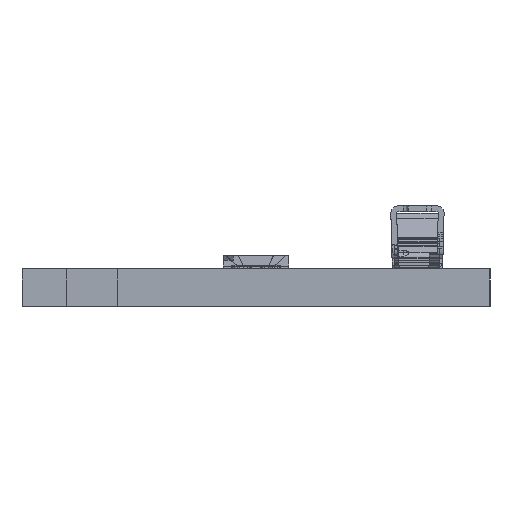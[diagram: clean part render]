
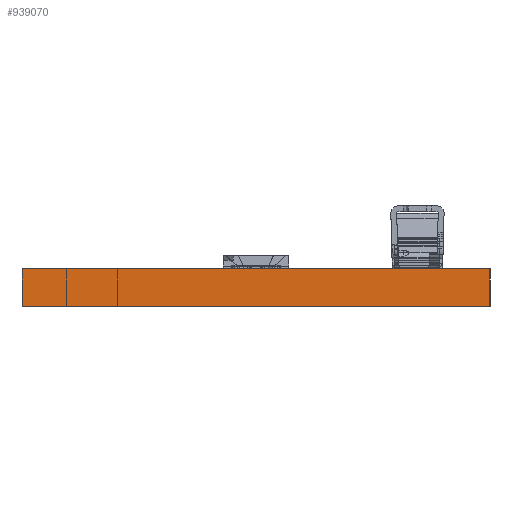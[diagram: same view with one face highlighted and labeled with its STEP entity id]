
A CAD part, left-side view. The second image highlights one B-rep face of the part: STEP entity #939070.
In plain terms, the highlighted planar face has unit normal (-1, 0, 0).
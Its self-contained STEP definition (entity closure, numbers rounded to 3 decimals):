
#911180=CARTESIAN_POINT('',(6.07,20.803,0.));
#911190=DIRECTION('',(0.,1.,0.));
#911200=VECTOR('',#911190,0.039);
#911210=LINE('',#911180,#911200);
#911220=CARTESIAN_POINT('',(6.07,20.803,0.));
#911230=VERTEX_POINT('',#911220);
#911240=CARTESIAN_POINT('',(6.07,40.803,0.));
#911250=VERTEX_POINT('',#911240);
#911260=EDGE_CURVE('',#911230,#911250,#911210,.T.);
#919970=CARTESIAN_POINT('',(6.07,20.803,-1.6));
#919980=VERTEX_POINT('',#919970);
#923430=CARTESIAN_POINT('',(6.07,40.803,-1.6));
#923440=VERTEX_POINT('',#923430);
#923470=CARTESIAN_POINT('',(6.07,20.803,-1.6));
#923480=DIRECTION('',(0.,1.,0.));
#923490=VECTOR('',#923480,0.039);
#923500=LINE('',#923470,#923490);
#923510=EDGE_CURVE('',#919980,#923440,#923500,.T.);
#928720=CARTESIAN_POINT('',(6.07,20.803,0.));
#928730=DIRECTION('',(0.,0.,-1.));
#928740=VECTOR('',#928730,1.);
#928750=LINE('',#928720,#928740);
#928760=EDGE_CURVE('',#911230,#919980,#928750,.T.);
#938780=CARTESIAN_POINT('',(6.07,40.803,0.));
#938790=DIRECTION('',(0.,0.,-1.));
#938800=VECTOR('',#938790,1.);
#938810=LINE('',#938780,#938800);
#938820=EDGE_CURVE('',#911250,#923440,#938810,.T.);
#938960=CARTESIAN_POINT('',(6.07,20.803,0.));
#938970=DIRECTION('',(1.,0.,0.));
#938980=DIRECTION('',(0.,-1.,0.));
#938990=AXIS2_PLACEMENT_3D('',#938960,#938970,#938980);
#939000=PLANE('',#938990);
#939010=ORIENTED_EDGE('',*,*,#911260,.T.);
#939020=ORIENTED_EDGE('',*,*,#928760,.F.);
#939030=ORIENTED_EDGE('',*,*,#923510,.F.);
#939040=ORIENTED_EDGE('',*,*,#938820,.T.);
#939050=EDGE_LOOP('',(#939040,#939030,#939020,#939010));
#939060=FACE_OUTER_BOUND('',#939050,.T.);
#939070=ADVANCED_FACE('',(#939060),#939000,.F.);
